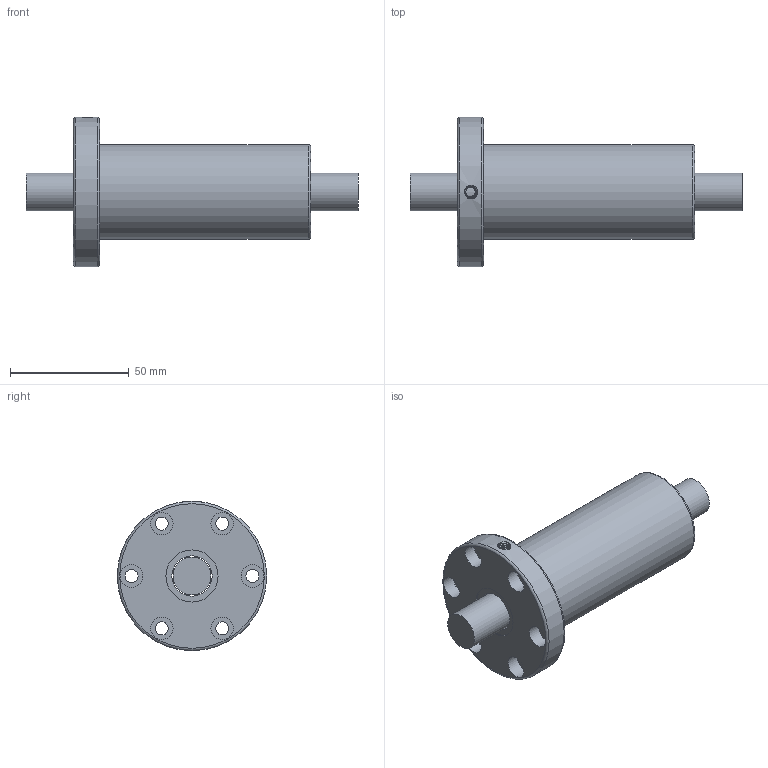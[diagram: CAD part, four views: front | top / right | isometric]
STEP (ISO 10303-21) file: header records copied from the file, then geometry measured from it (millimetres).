
FILE_DESCRIPTION(/* description */ ('Unknown','CAx-IF Rec.Pracs.---Representation and Presentation of Product Manufacturing Information (PMI)---4.0---2014-10-13','CAx-IF Rec.Pracs.---3D Tessellated Geometry---0.4---2014-09-14','2;1'),/* implementation_level */ '2;1');
FILE_NAME(/* name */ 'OFV01605-4.8',/* time_stamp */ '2020-12-06T19:53:46+08:00',/* author */ ('Unknown'),/* organization */ ('Unknown'),/* preprocessor_version */ 'ST-DEVELOPER v16.7',/* originating_system */ 'Solid Edge',/* authorisation */ 'Unknown');
FILE_SCHEMA (('AP242_MANAGED_MODEL_BASED_3D_ENGINEERING_MIM_LF { 1 0 10303 442 1 1 4 }'));
Length unit declared in the file: millimetre
Products named in the file (1): OFV01605-4
Bounding box: 140 x 63 x 63 mm (x, y, z)
Volume: 147828.1 mm3; surface area: 33353.2 mm2
Topology: 2 solids, 2 shells, 41 faces, 87 edges, 59 vertices
Faces by surface type: cylinder 21, plane 14, torus 3, bspline 2, cone 1
Full cylindrical faces by diameter (mm): 4 x1, 5.5 x6, 9.5 x6, 16 x1, 17 x1, 22 x2, 40 x1, 63 x1
Entity records: 3278 total; most frequent: CARTESIAN_POINT 2425, DIRECTION 172, ORIENTED_EDGE 108, EDGE_LOOP 89, FACE_BOUND 89, AXIS2_PLACEMENT_3D 87, EDGE_CURVE 54, VERTEX_POINT 49
